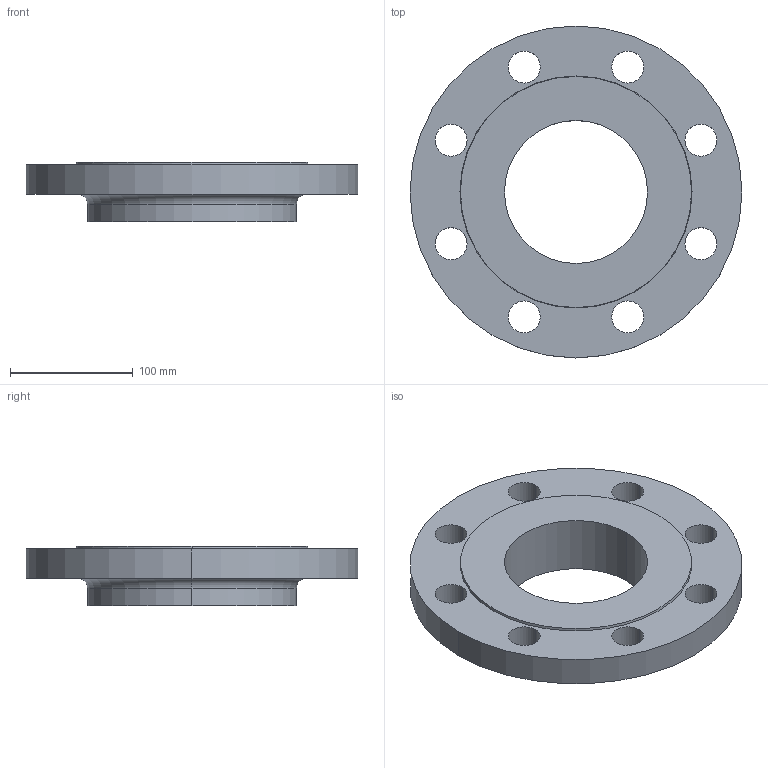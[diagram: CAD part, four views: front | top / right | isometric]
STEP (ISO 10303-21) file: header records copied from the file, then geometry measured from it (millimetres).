
FILE_DESCRIPTION (( 'STEP AP214' ), '1' );
FILE_NAME ('PN40 DN125 Type 13 - Type B Face.STEP', '2019-01-02T02:09:37', ( '' ), ( '' ), 'SwSTEP 2.0', 'SolidWorks 2019', '' );
FILE_SCHEMA (( 'AUTOMOTIVE_DESIGN' ));
Length unit declared in the file: millimetre
Products named in the file (1): PN40 DN125 Type 13 - Type B Face
Bounding box: 270 x 270 x 48 mm (x, y, z)
Volume: 1324509.2 mm3; surface area: 149276.7 mm2
Topology: 1 solids, 1 shells, 30 faces, 76 edges, 50 vertices
Faces by surface type: cylinder 22, plane 4, torus 2, cone 2
Entity records: 1006 total; most frequent: DIRECTION 190, CARTESIAN_POINT 157, ORIENTED_EDGE 152, AXIS2_PLACEMENT_3D 83, EDGE_CURVE 76, CIRCLE 52, VERTEX_POINT 50, EDGE_LOOP 50
